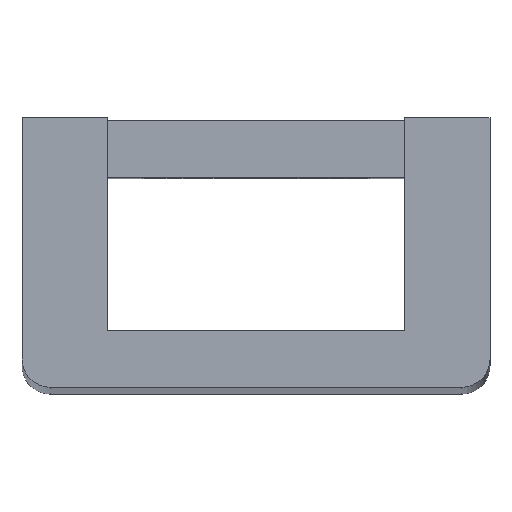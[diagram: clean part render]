
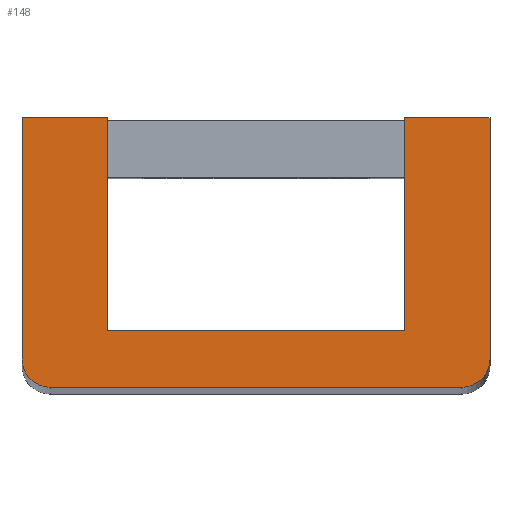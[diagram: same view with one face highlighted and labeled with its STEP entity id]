
A CAD part, top view. The second image highlights one B-rep face of the part: STEP entity #148.
In plain terms, the highlighted planar face has unit normal (0, 0, 1).
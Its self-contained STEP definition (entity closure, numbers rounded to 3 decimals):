
#148=ADVANCED_FACE('',(#287),#289,.F.);
#287=FACE_BOUND('',#288,.T.);
#288=EDGE_LOOP('',(#413,#414,#415,#416,#417,#418,#419,#420,#421,#422));
#289=PLANE('',#290);
#290=AXIS2_PLACEMENT_3D('',#291,#292,#293);
#291=CARTESIAN_POINT('',(19.,-33.5,155.));
#292=DIRECTION('',(0.,0.,-1.));
#293=DIRECTION('',(-1.,0.,0.));
#413=ORIENTED_EDGE('',*,*,#478,.F.);
#414=ORIENTED_EDGE('',*,*,#471,.F.);
#415=ORIENTED_EDGE('',*,*,#454,.F.);
#416=ORIENTED_EDGE('',*,*,#464,.F.);
#417=ORIENTED_EDGE('',*,*,#482,.F.);
#418=ORIENTED_EDGE('',*,*,#461,.F.);
#419=ORIENTED_EDGE('',*,*,#448,.F.);
#420=ORIENTED_EDGE('',*,*,#452,.F.);
#421=ORIENTED_EDGE('',*,*,#444,.F.);
#422=ORIENTED_EDGE('',*,*,#458,.F.);
#444=EDGE_CURVE('',#492,#493,#494,.T.);
#448=EDGE_CURVE('',#500,#501,#502,.T.);
#452=EDGE_CURVE('',#493,#500,#508,.F.);
#454=EDGE_CURVE('',#510,#511,#512,.T.);
#458=EDGE_CURVE('',#518,#492,#519,.F.);
#461=EDGE_CURVE('',#501,#523,#524,.F.);
#464=EDGE_CURVE('',#528,#510,#529,.T.);
#471=EDGE_CURVE('',#511,#541,#542,.T.);
#478=EDGE_CURVE('',#541,#518,#554,.F.);
#482=EDGE_CURVE('',#523,#528,#558,.F.);
#492=VERTEX_POINT('',#574);
#493=VERTEX_POINT('',#575);
#494=CIRCLE('',#576,1.);
#500=VERTEX_POINT('',#592);
#501=VERTEX_POINT('',#593);
#502=CIRCLE('',#594,1.);
#508=LINE('',#610,#611);
#510=VERTEX_POINT('',#616);
#511=VERTEX_POINT('',#617);
#512=LINE('',#618,#619);
#518=VERTEX_POINT('',#632);
#519=LINE('',#633,#634);
#523=VERTEX_POINT('',#643);
#524=LINE('',#644,#645);
#528=VERTEX_POINT('',#654);
#529=LINE('',#655,#656);
#541=VERTEX_POINT('',#681);
#542=LINE('',#682,#683);
#554=LINE('',#708,#709);
#558=LINE('',#720,#721);
#574=CARTESIAN_POINT('',(16.5,1.,155.));
#575=CARTESIAN_POINT('',(15.5,0.,155.));
#576=AXIS2_PLACEMENT_3D('',#577,#578,#579);
#577=CARTESIAN_POINT('',(15.5,1.,155.));
#578=DIRECTION('',(-0.,0.,-1.));
#579=DIRECTION('',(1.,0.,0.));
#592=CARTESIAN_POINT('',(1.,0.,155.));
#593=CARTESIAN_POINT('',(0.,1.,155.));
#594=AXIS2_PLACEMENT_3D('',#595,#596,#597);
#595=CARTESIAN_POINT('',(1.,1.,155.));
#596=DIRECTION('',(-0.,0.,-1.));
#597=DIRECTION('',(0.,-1.,0.));
#610=CARTESIAN_POINT('',(1.,0.,155.));
#611=VECTOR('',#612,1.);
#612=DIRECTION('',(1.,0.,0.));
#616=CARTESIAN_POINT('',(3.,2.,155.));
#617=CARTESIAN_POINT('',(13.5,2.,155.));
#618=CARTESIAN_POINT('',(3.,2.,155.));
#619=VECTOR('',#620,1.);
#620=DIRECTION('',(1.,0.,0.));
#632=CARTESIAN_POINT('',(16.5,9.5,155.));
#633=CARTESIAN_POINT('',(16.5,1.,155.));
#634=VECTOR('',#635,1.);
#635=DIRECTION('',(0.,1.,0.));
#643=CARTESIAN_POINT('',(0.,9.5,155.));
#644=CARTESIAN_POINT('',(0.,9.5,155.));
#645=VECTOR('',#646,1.);
#646=DIRECTION('',(0.,-1.,0.));
#654=CARTESIAN_POINT('',(3.,9.5,155.));
#655=CARTESIAN_POINT('',(3.,9.5,155.));
#656=VECTOR('',#657,1.);
#657=DIRECTION('',(0.,-1.,0.));
#681=CARTESIAN_POINT('',(13.5,9.5,155.));
#682=CARTESIAN_POINT('',(13.5,2.,155.));
#683=VECTOR('',#684,1.);
#684=DIRECTION('',(0.,1.,0.));
#708=CARTESIAN_POINT('',(16.5,9.5,155.));
#709=VECTOR('',#710,1.);
#710=DIRECTION('',(-1.,0.,0.));
#720=CARTESIAN_POINT('',(3.,9.5,155.));
#721=VECTOR('',#722,1.);
#722=DIRECTION('',(-1.,0.,0.));
